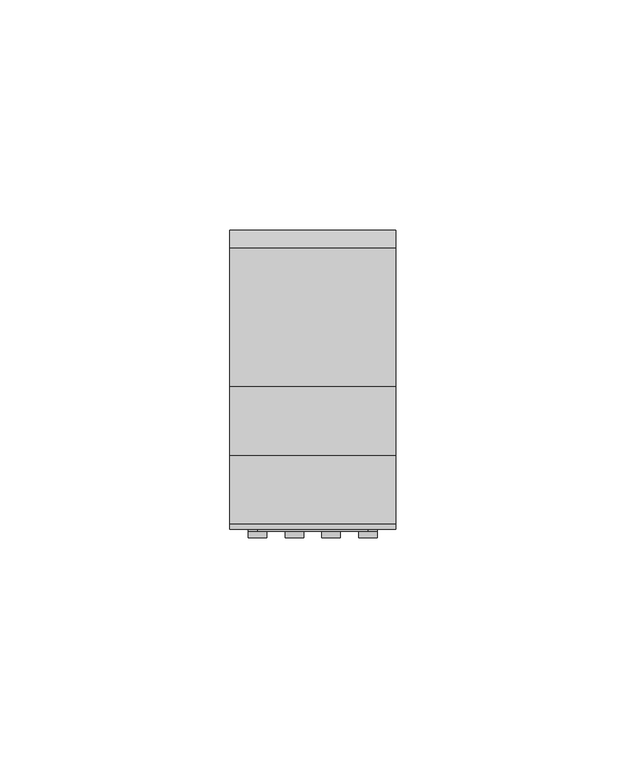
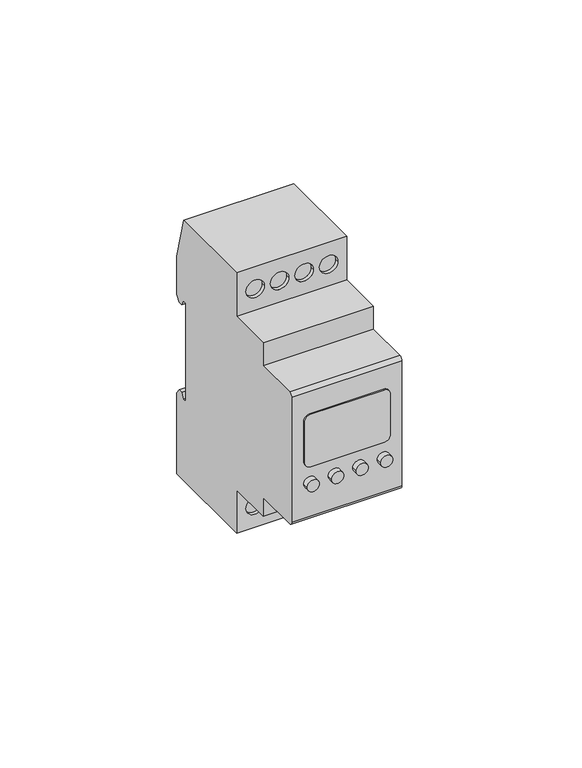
"""IFC4 building model written with IfcOpenShell, lengths in millimetres: proxy geometry, TDM_РЕЛЕ ТЕМПЕРАТУРЫ СЕРИИ РТ-820 М : 16А."""

from ifc_helpers import new_model, si_unit, point, frame, frame_2d, origin, place, context, project, spatial, polyline, circle_curve, trimmed, segment, composite_curve, outline, extrude, source, transform, mapped, element, save
from ifc_brep_helpers import plane_surface, cylinder_surface, revolved_surface, advanced_brep


def electrical_equipment_389d0776(model_context):
    return source(origin(), model_context, "Body", "SolidModel", [
        extrude(outline(composite_curve([segment(polyline([(13.1241122, 12.0), (13.1241122, -12.0)]), True, "CONTINUOUS"), segment(trimmed(circle_curve(frame_2d((11.1241122, -12.0)), 2.0), [point((13.1241122, -12.0))], [point((11.1241122, -14.0))], False, "CARTESIAN"), True, "CONTINUOUS"), segment(polyline([(11.1241122, -14.0), (-2.8758878, -14.0)]), True, "CONTINUOUS"), segment(trimmed(circle_curve(frame_2d((-2.8758878, -12.0)), 2.0), [point((-2.8758878, -14.0))], [point((-4.8758878, -12.0))], False, "CARTESIAN"), True, "CONTINUOUS"), segment(polyline([(-4.8758878, -12.0), (-4.8758878, 12.0)]), True, "CONTINUOUS"), segment(trimmed(circle_curve(frame_2d((-2.8758878, 12.0)), 2.0), [point((-4.8758878, 12.0))], [point((-2.8758878, 14.0))], False, "CARTESIAN"), True, "CONTINUOUS"), segment(polyline([(-2.8758878, 14.0), (11.1241122, 14.0)]), True, "CONTINUOUS"), segment(trimmed(circle_curve(frame_2d((11.1241122, 12.0)), 2.0), [point((11.1241122, 14.0))], [point((13.1241122, 12.0))], False, "CARTESIAN"), True, "CONTINUOUS")], self_intersect=False)), frame((0.0, -28.0, 0.0), z_axis=(0.0, 1.0, 0.0), x_axis=(0.0, 0.0, 1.0)), (0.0, 0.0, 1.0), 0.5),
        extrude(outline(composite_curve([segment(trimmed(circle_curve(frame_2d((-10.5907731, 4.0)), 2.0), [point((-10.5907731, 2.0))], [point((-10.5907731, 6.0))], False, "CARTESIAN"), True, "CONTINUOUS"), segment(trimmed(circle_curve(frame_2d((-10.5907731, 4.0)), 2.0), [point((-10.5907731, 6.0))], [point((-10.5907731, 2.0))], False, "CARTESIAN"), True, "CONTINUOUS")], self_intersect=False)), frame((0.0, -29.4413206, 0.0), z_axis=(0.0, 1.0, 0.0), x_axis=(0.0, 0.0, 1.0)), (0.0, 0.0, 1.0), 1.9413206),
        extrude(outline(composite_curve([segment(trimmed(circle_curve(frame_2d((-10.5907731, 12.0)), 2.0), [point((-10.5907731, 10.0))], [point((-10.5907731, 14.0))], False, "CARTESIAN"), True, "CONTINUOUS"), segment(trimmed(circle_curve(frame_2d((-10.5907731, 12.0)), 2.0), [point((-10.5907731, 14.0))], [point((-10.5907731, 10.0))], False, "CARTESIAN"), True, "CONTINUOUS")], self_intersect=False)), frame((0.0, -29.4413206, 0.0), z_axis=(0.0, 1.0, 0.0), x_axis=(0.0, 0.0, 1.0)), (0.0, 0.0, 1.0), 1.9413206),
        extrude(outline(composite_curve([segment(trimmed(circle_curve(frame_2d((-10.5907731, -4.0)), 2.0), [point((-10.5907731, -2.0))], [point((-10.5907731, -6.0))], False, "CARTESIAN"), True, "CONTINUOUS"), segment(trimmed(circle_curve(frame_2d((-10.5907731, -4.0)), 2.0), [point((-10.5907731, -6.0))], [point((-10.5907731, -2.0))], False, "CARTESIAN"), True, "CONTINUOUS")], self_intersect=False)), frame((0.0, -29.4413206, 0.0), z_axis=(0.0, 1.0, 0.0), x_axis=(0.0, 0.0, 1.0)), (0.0, 0.0, 1.0), 1.9413206),
        extrude(outline(composite_curve([segment(trimmed(circle_curve(frame_2d((-10.5907731, -12.0)), 2.0), [point((-10.5907731, -10.0))], [point((-10.5907731, -14.0))], False, "CARTESIAN"), True, "CONTINUOUS"), segment(trimmed(circle_curve(frame_2d((-10.5907731, -12.0)), 2.0), [point((-10.5907731, -14.0))], [point((-10.5907731, -10.0))], False, "CARTESIAN"), True, "CONTINUOUS")], self_intersect=False)), frame((0.0, -29.4413206, 0.0), z_axis=(0.0, 1.0, 0.0), x_axis=(0.0, 0.0, 1.0)), (0.0, 0.0, 1.0), 1.9413206),
        extrude(outline(polyline([(17.0, 16.6821204), (17.0, 5.0468966), (-17.0, 5.0468966), (-17.0, 16.6821204), (17.0, 16.6821204)])), frame((0.0, 0.0, -44.0625), z_axis=(0.0, 0.0, 1.0), x_axis=(1.0, 0.0, 0.0)), (0.0, 0.0, 1.0), 87.8126081),
        advanced_brep(
        [(18.0, 32.5, 17.0), (18.0, 33.6998687, 17.0), (18.0, 34.5867748, 15.0980238), (18.0, 36.1682219, 15.0980238), (18.0, 37.5, 17.0), (18.0, 37.5, 30.0836686), (18.0, 33.503181, 45.0), (18.0, 3.5, 45.0), (18.0, 3.5, 30.0), (18.0, -11.5, 30.0), (18.0, -11.5, 22.0), (18.0, -26.3777313, 22.0), (18.0, -27.5, 20.8777313), (18.0, -27.5, -22.3875602), (18.0, -26.3875602, -23.5), (18.0, -11.5, -23.5), (18.0, -11.5, -30.0), (18.0, 3.5, -30.0), (18.0, 3.5, -45.0), (18.0, 37.5, -45.0), (18.0, 37.5, -17.0), (18.0, 36.1682219, -15.0980238), (18.0, 34.5867748, -15.0980238), (18.0, 33.6998687, -17.0), (18.0, 32.5, -17.0), (-18.0, 32.5, 17.0), (-18.0, 32.5, -17.0), (-18.0, 33.6998687, -17.0), (-18.0, 34.5867748, -15.0980238), (-18.0, 36.1682219, -15.0980238), (-18.0, 37.5, -17.0), (-18.0, 37.5, -45.0), (-18.0, 3.5, -45.0), (-18.0, 3.5, -30.0), (-18.0, -11.5, -30.0), (-18.0, -11.5, -23.5), (-18.0, -26.3875602, -23.5), (-18.0, -27.5, -22.3875602), (-18.0, -27.5, 20.8777313), (-18.0, -26.3777313, 22.0), (-18.0, -11.5, 22.0), (-18.0, -11.5, 30.0), (-18.0, 3.5, 30.0), (-18.0, 3.5, 45.0), (-18.0, 33.503181, 45.0), (-18.0, 37.5, 30.0836686), (-18.0, 37.5, 17.0), (-18.0, 36.1682219, 15.0980238), (-18.0, 34.5867748, 15.0980238), (-18.0, 33.6998687, 17.0), (7.0, 6.1937398, -37.4385116), (1.0, 6.1937398, -37.4385116), (-7.0, 6.1937398, -37.4385116), (-1.0, 6.1937398, -37.4385116), (15.0, 6.1937398, -37.4385116), (9.0, 6.1937398, -37.4385116), (-15.0, 6.1937398, -37.4385116), (-9.0, 6.1937398, -37.4385116), (7.0, 6.1937398, 37.4385116), (1.0, 6.1937398, 37.4385116), (-7.0, 6.1937398, 37.4385116), (-1.0, 6.1937398, 37.4385116), (15.0, 6.1937398, 37.4385116), (9.0, 6.1937398, 37.4385116), (-15.0, 6.1937398, 37.4385116), (-9.0, 6.1937398, 37.4385116), (1.0, 3.5, 37.4385116), (7.0, 3.5, 37.4385116), (-1.0, 3.5, 37.4385116), (-7.0, 3.5, 37.4385116), (9.0, 3.5, 37.4385116), (15.0, 3.5, 37.4385116), (-9.0, 3.5, 37.4385116), (-15.0, 3.5, 37.4385116), (1.0, 3.5, -37.4385116), (7.0, 3.5, -37.4385116), (-1.0, 3.5, -37.4385116), (-7.0, 3.5, -37.4385116), (9.0, 3.5, -37.4385116), (15.0, 3.5, -37.4385116), (-9.0, 3.5, -37.4385116), (-15.0, 3.5, -37.4385116)],
        [
            (0, 1),
            (1, 2),
            (2, 3),
            (3, 4),
            (4, 5),
            (5, 6),
            (6, 7),
            (7, 8),
            (8, 9),
            (9, 10),
            (10, 11),
            (11, 12, circle_curve(frame((18.0, -26.3777313, 20.8777313), z_axis=(1.0, 0.0, 0.0), x_axis=(0.0, -1.0, 0.0)), 1.1222687)),
            (12, 13),
            (13, 14, circle_curve(frame((18.0, -26.3875602, -22.3875602), z_axis=(1.0, 0.0, 0.0), x_axis=(0.0, -1.0, 0.0)), 1.1124398)),
            (14, 15),
            (15, 16),
            (16, 17),
            (17, 18),
            (18, 19),
            (19, 20),
            (20, 21),
            (21, 22),
            (22, 23),
            (23, 24),
            (24, 0),
            (25, 26),
            (26, 27),
            (27, 28),
            (28, 29),
            (29, 30),
            (30, 31),
            (31, 32),
            (32, 33),
            (33, 34),
            (34, 35),
            (35, 36),
            (36, 37, circle_curve(frame((-18.0, -26.3875602, -22.3875602), z_axis=(-1.0, 0.0, 0.0), x_axis=(0.0, -1.0, 0.0)), 1.1124398)),
            (37, 38),
            (38, 39, circle_curve(frame((-18.0, -26.3777313, 20.8777313), z_axis=(-1.0, 0.0, 0.0), x_axis=(0.0, -1.0, 0.0)), 1.1222687)),
            (39, 40),
            (40, 41),
            (41, 42),
            (42, 43),
            (43, 44),
            (44, 45),
            (45, 46),
            (46, 47),
            (47, 48),
            (48, 49),
            (49, 25),
            (0, 25),
            (49, 1),
            (4, 46),
            (45, 5),
            (10, 40),
            (39, 11),
            (38, 12),
            (37, 13),
            (14, 36),
            (35, 15),
            (18, 32),
            (31, 19),
            (30, 20),
            (23, 27),
            (26, 24),
            (50, 51, circle_curve(frame((4.0, 6.1937398, -37.4385116), z_axis=(0.0, -1.0, 0.0), x_axis=(-1.0, 0.0, 0.0)), 3.0)),
            (51, 50, circle_curve(frame((4.0, 6.1937398, -37.4385116), z_axis=(0.0, -1.0, 0.0), x_axis=(-1.0, 0.0, 0.0)), 3.0)),
            (52, 53, circle_curve(frame((-4.0, 6.1937398, -37.4385116), z_axis=(0.0, -1.0, 0.0), x_axis=(1.0, 0.0, 0.0)), 3.0)),
            (53, 52, circle_curve(frame((-4.0, 6.1937398, -37.4385116), z_axis=(0.0, -1.0, 0.0), x_axis=(1.0, 0.0, 0.0)), 3.0)),
            (54, 55, circle_curve(frame((12.0, 6.1937398, -37.4385116), z_axis=(0.0, -1.0, 0.0), x_axis=(-1.0, 0.0, 0.0)), 3.0)),
            (55, 54, circle_curve(frame((12.0, 6.1937398, -37.4385116), z_axis=(0.0, -1.0, 0.0), x_axis=(-1.0, 0.0, 0.0)), 3.0)),
            (56, 57, circle_curve(frame((-12.0, 6.1937398, -37.4385116), z_axis=(0.0, -1.0, 0.0), x_axis=(1.0, 0.0, 0.0)), 3.0)),
            (57, 56, circle_curve(frame((-12.0, 6.1937398, -37.4385116), z_axis=(0.0, -1.0, 0.0), x_axis=(1.0, 0.0, 0.0)), 3.0)),
            (58, 59, circle_curve(frame((4.0, 6.1937398, 37.4385116), z_axis=(0.0, -1.0, 0.0), x_axis=(-1.0, 0.0, 0.0)), 3.0)),
            (59, 58, circle_curve(frame((4.0, 6.1937398, 37.4385116), z_axis=(0.0, -1.0, 0.0), x_axis=(-1.0, 0.0, 0.0)), 3.0)),
            (60, 61, circle_curve(frame((-4.0, 6.1937398, 37.4385116), z_axis=(0.0, -1.0, 0.0), x_axis=(1.0, 0.0, 0.0)), 3.0)),
            (61, 60, circle_curve(frame((-4.0, 6.1937398, 37.4385116), z_axis=(0.0, -1.0, 0.0), x_axis=(1.0, 0.0, 0.0)), 3.0)),
            (62, 63, circle_curve(frame((12.0, 6.1937398, 37.4385116), z_axis=(0.0, -1.0, 0.0), x_axis=(-1.0, 0.0, 0.0)), 3.0)),
            (63, 62, circle_curve(frame((12.0, 6.1937398, 37.4385116), z_axis=(0.0, -1.0, 0.0), x_axis=(-1.0, 0.0, 0.0)), 3.0)),
            (64, 65, circle_curve(frame((-12.0, 6.1937398, 37.4385116), z_axis=(0.0, -1.0, 0.0), x_axis=(1.0, 0.0, 0.0)), 3.0)),
            (65, 64, circle_curve(frame((-12.0, 6.1937398, 37.4385116), z_axis=(0.0, -1.0, 0.0), x_axis=(1.0, 0.0, 0.0)), 3.0)),
            (7, 43),
            (42, 8),
            (66, 67, circle_curve(frame((4.0, 3.5, 37.4385116), z_axis=(0.0, 1.0, 0.0), x_axis=(-1.0, 0.0, 0.0)), 3.0)),
            (67, 66, circle_curve(frame((4.0, 3.5, 37.4385116), z_axis=(0.0, 1.0, 0.0), x_axis=(-1.0, 0.0, 0.0)), 3.0)),
            (68, 69, circle_curve(frame((-4.0, 3.5, 37.4385116), z_axis=(0.0, 1.0, 0.0), x_axis=(1.0, 0.0, 0.0)), 3.0)),
            (69, 68, circle_curve(frame((-4.0, 3.5, 37.4385116), z_axis=(0.0, 1.0, 0.0), x_axis=(1.0, 0.0, 0.0)), 3.0)),
            (70, 71, circle_curve(frame((12.0, 3.5, 37.4385116), z_axis=(0.0, 1.0, 0.0), x_axis=(-1.0, 0.0, 0.0)), 3.0)),
            (71, 70, circle_curve(frame((12.0, 3.5, 37.4385116), z_axis=(0.0, 1.0, 0.0), x_axis=(-1.0, 0.0, 0.0)), 3.0)),
            (72, 73, circle_curve(frame((-12.0, 3.5, 37.4385116), z_axis=(0.0, 1.0, 0.0), x_axis=(1.0, 0.0, 0.0)), 3.0)),
            (73, 72, circle_curve(frame((-12.0, 3.5, 37.4385116), z_axis=(0.0, 1.0, 0.0), x_axis=(1.0, 0.0, 0.0)), 3.0)),
            (41, 9),
            (34, 16),
            (33, 17),
            (74, 75, circle_curve(frame((4.0, 3.5, -37.4385116), z_axis=(0.0, 1.0, 0.0), x_axis=(-1.0, 0.0, 0.0)), 3.0)),
            (75, 74, circle_curve(frame((4.0, 3.5, -37.4385116), z_axis=(0.0, 1.0, 0.0), x_axis=(-1.0, 0.0, 0.0)), 3.0)),
            (76, 77, circle_curve(frame((-4.0, 3.5, -37.4385116), z_axis=(0.0, 1.0, 0.0), x_axis=(1.0, 0.0, 0.0)), 3.0)),
            (77, 76, circle_curve(frame((-4.0, 3.5, -37.4385116), z_axis=(0.0, 1.0, 0.0), x_axis=(1.0, 0.0, 0.0)), 3.0)),
            (78, 79, circle_curve(frame((12.0, 3.5, -37.4385116), z_axis=(0.0, 1.0, 0.0), x_axis=(-1.0, 0.0, 0.0)), 3.0)),
            (79, 78, circle_curve(frame((12.0, 3.5, -37.4385116), z_axis=(0.0, 1.0, 0.0), x_axis=(-1.0, 0.0, 0.0)), 3.0)),
            (80, 81, circle_curve(frame((-12.0, 3.5, -37.4385116), z_axis=(0.0, 1.0, 0.0), x_axis=(1.0, 0.0, 0.0)), 3.0)),
            (81, 80, circle_curve(frame((-12.0, 3.5, -37.4385116), z_axis=(0.0, 1.0, 0.0), x_axis=(1.0, 0.0, 0.0)), 3.0)),
            (6, 44),
            (50, 75),
            (74, 51),
            (52, 77),
            (76, 53),
            (54, 79),
            (78, 55),
            (56, 81),
            (80, 57),
            (58, 67),
            (66, 59),
            (60, 69),
            (68, 61),
            (62, 71),
            (70, 63),
            (64, 73),
            (72, 65),
            (48, 2),
            (47, 3),
            (29, 21),
            (28, 22),
        ],
        [
            plane_surface(frame((18.0, 31.7632568, 17.0), z_axis=(1.0, 0.0, 0.0), x_axis=(0.0, 1.0, 0.0))),
            plane_surface(frame((-18.0, 31.7632568, 17.0), z_axis=(-1.0, 0.0, 0.0), x_axis=(0.0, -1.0, 0.0))),
            plane_surface(frame((18.0, 32.5, 17.0), z_axis=(0.0, 0.0, -1.0), x_axis=(-1.0, 0.0, 0.0))),
            plane_surface(frame((18.0, 37.5, 17.0), z_axis=(0.0, 1.0, 0.0), x_axis=(-1.0, 0.0, 0.0))),
            plane_surface(frame((18.0, -11.5, 22.0), z_axis=(0.0, 0.0, 1.0), x_axis=(-1.0, 0.0, 0.0))),
            cylinder_surface(frame((-18.0, -26.3777313, 20.8777313), z_axis=(1.0, 0.0, 0.0), x_axis=(0.0, -1.0, 0.0)), 1.1222687),
            plane_surface(frame((18.0, -27.5, 20.8777313), z_axis=(0.0, -1.0, 0.0), x_axis=(-1.0, 0.0, 0.0))),
            plane_surface(frame((18.0, -26.3875602, -23.5), z_axis=(0.0, 0.0, -1.0), x_axis=(-1.0, 0.0, 0.0))),
            plane_surface(frame((18.0, 3.5, -45.0), z_axis=(0.0, 0.0, -1.0), x_axis=(-1.0, 0.0, 0.0))),
            plane_surface(frame((18.0, 37.5, -45.0), z_axis=(0.0, 1.0, 0.0), x_axis=(-1.0, 0.0, 0.0))),
            plane_surface(frame((18.0, 33.6998687, -17.0), z_axis=(0.0, 0.0, 1.0), x_axis=(-1.0, 0.0, 0.0))),
            plane_surface(frame((18.0, 32.5, -17.0), z_axis=(0.0, 1.0, 0.0), x_axis=(-1.0, 0.0, 0.0))),
            cylinder_surface(frame((-18.0, -26.3875602, -22.3875602), z_axis=(1.0, 0.0, 0.0), x_axis=(0.0, -1.0, 0.0)), 1.1124398),
            plane_surface(frame((1.0, 6.1937398, -37.4385116), z_axis=(0.0, -1.0, 0.0), x_axis=(0.0, 0.0, 1.0))),
            plane_surface(frame((18.0, 3.5, 45.0), z_axis=(0.0, -1.0, 0.0), x_axis=(-1.0, 0.0, 0.0))),
            plane_surface(frame((18.0, 3.5, 30.0), z_axis=(0.0, 0.0, 1.0), x_axis=(-1.0, 0.0, 0.0))),
            plane_surface(frame((18.0, -11.5, 30.0), z_axis=(0.0, -1.0, 0.0), x_axis=(-1.0, 0.0, 0.0))),
            plane_surface(frame((18.0, -11.5, -23.5), z_axis=(0.0, -1.0, 0.0), x_axis=(-1.0, 0.0, 0.0))),
            plane_surface(frame((18.0, -11.5, -30.0), z_axis=(0.0, 0.0, -1.0), x_axis=(-1.0, 0.0, 0.0))),
            plane_surface(frame((18.0, 3.5, -30.0), z_axis=(0.0, -1.0, 0.0), x_axis=(-1.0, 0.0, 0.0))),
            plane_surface(frame((18.0, 33.503181, 45.0), z_axis=(0.0, 0.0, 1.0), x_axis=(-1.0, 0.0, 0.0))),
            revolved_surface(polyline([(1.0, 3.5, -37.4385116), (1.0, 6.1937398, -37.4385116)]), (4.0, 6.1937398, -37.4385116), (0.0, -1.0, 0.0)),
            revolved_surface(polyline([(-1.0, 3.5, -37.4385116), (-1.0, 6.1937398, -37.4385116)]), (-4.0, 0.0, -37.4385116), (0.0, -1.0, 0.0)),
            revolved_surface(polyline([(9.0, 3.5, -37.4385116), (9.0, 6.1937398, -37.4385116)]), (12.0, 0.0, -37.4385116), (0.0, -1.0, 0.0)),
            revolved_surface(polyline([(-9.0, 3.5, -37.4385116), (-9.0, 6.1937398, -37.4385116)]), (-12.0, 0.0, -37.4385116), (0.0, -1.0, 0.0)),
            revolved_surface(polyline([(1.0, 3.5, 37.4385116), (1.0, 6.1937398, 37.4385116)]), (4.0, 0.0, 37.4385116), (0.0, -1.0, 0.0)),
            revolved_surface(polyline([(-1.0, 3.5, 37.4385116), (-1.0, 6.1937398, 37.4385116)]), (-4.0, 0.0, 37.4385116), (0.0, -1.0, 0.0)),
            revolved_surface(polyline([(9.0, 3.5, 37.4385116), (9.0, 6.1937398, 37.4385116)]), (12.0, 0.0, 37.4385116), (0.0, -1.0, 0.0)),
            revolved_surface(polyline([(-9.0, 3.5, 37.4385116), (-9.0, 6.1937398, 37.4385116)]), (-12.0, 0.0, 37.4385116), (0.0, -1.0, 0.0)),
            plane_surface(frame((18.0, 33.6998687, 17.0), z_axis=(0.0, -0.9063077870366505, -0.42261826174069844), x_axis=(-1.0, 0.0, 0.0))),
            plane_surface(frame((18.0, 34.5867748, 15.0980238), z_axis=(0.0, 0.0, -1.0), x_axis=(-1.0, 0.0, 0.0))),
            plane_surface(frame((18.0, 36.1682219, 15.0980238), z_axis=(0.0, 0.8191520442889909, -0.5735764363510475), x_axis=(-1.0, 0.0, 0.0))),
            plane_surface(frame((18.0, 37.5, 30.0836686), z_axis=(0.0, 0.9659258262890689, 0.2588190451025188), x_axis=(-1.0, 0.0, 0.0))),
            plane_surface(frame((18.0, 37.5, -17.0), z_axis=(0.0, 0.8191520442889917, 0.5735764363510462), x_axis=(-1.0, 0.0, 0.0))),
            plane_surface(frame((18.0, 36.1682219, -15.0980238), z_axis=(0.0, 0.0, 1.0), x_axis=(-1.0, 0.0, 0.0))),
            plane_surface(frame((18.0, 34.5867748, -15.0980238), z_axis=(0.0, -0.9063077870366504, 0.42261826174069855), x_axis=(-1.0, 0.0, 0.0))),
        ],
        [
            (0, [[1, 2, 3, 4, 5, 6, 7, 8, 9, 10, 11, 12, 13, 14, 15, 16, 17, 18, 19, 20, 21, 22, 23, 24, 25]]),
            (1, [[26, 27, 28, 29, 30, 31, 32, 33, 34, 35, 36, 37, 38, 39, 40, 41, 42, 43, 44, 45, 46, 47, 48, 49, 50]]),
            (2, [[-1, 51, -50, 52]]),
            (3, [[-5, 53, -46, 54]]),
            (4, [[-11, 55, -40, 56]]),
            (5, [[-12, -56, -39, 57]]),
            (6, [[-13, -57, -38, 58]]),
            (7, [[-15, 59, -36, 60]]),
            (8, [[-19, 61, -32, 62]]),
            (9, [[-20, -62, -31, 63]]),
            (10, [[-24, 64, -27, 65]]),
            (11, [[-25, -65, -26, -51]]),
            (12, [[-14, -58, -37, -59]]),
            (13, [[66, 67]]),
            (13, [[68, 69]]),
            (13, [[70, 71]]),
            (13, [[72, 73]]),
            (13, [[74, 75]]),
            (13, [[76, 77]]),
            (13, [[78, 79]]),
            (13, [[80, 81]]),
            (14, [[-8, 82, -43, 83], [84, 85], [86, 87], [88, 89], [90, 91]]),
            (15, [[-9, -83, -42, 92]]),
            (16, [[-10, -92, -41, -55]]),
            (17, [[-16, -60, -35, 93]]),
            (18, [[-17, -93, -34, 94]]),
            (19, [[-18, -94, -33, -61], [95, 96], [97, 98], [99, 100], [101, 102]]),
            (20, [[-7, 103, -44, -82]]),
            (21, [[-66, 104, -95, 105]]),
            (21, [[-67, -105, -96, -104]]),
            (22, [[-68, 106, -97, 107]]),
            (22, [[-69, -107, -98, -106]]),
            (23, [[-70, 108, -99, 109]]),
            (23, [[-71, -109, -100, -108]]),
            (24, [[-72, 110, -101, 111]]),
            (24, [[-73, -111, -102, -110]]),
            (25, [[-74, 112, -84, 113]]),
            (25, [[-75, -113, -85, -112]]),
            (26, [[-76, 114, -86, 115]]),
            (26, [[-77, -115, -87, -114]]),
            (27, [[-78, 116, -88, 117]]),
            (27, [[-79, -117, -89, -116]]),
            (28, [[-80, 118, -90, 119]]),
            (28, [[-81, -119, -91, -118]]),
            (29, [[-2, -52, -49, 120]]),
            (30, [[-3, -120, -48, 121]]),
            (31, [[-4, -121, -47, -53]]),
            (32, [[-6, -54, -45, -103]]),
            (33, [[-21, -63, -30, 122]]),
            (34, [[-22, -122, -29, 123]]),
            (35, [[-23, -123, -28, -64]]),
        ],
    ),
    ])


if __name__ == "__main__":
    model = new_model("IFC4")
    model_context = context("Model", 3, world=origin())
    ifc_project = project(units=[si_unit("LENGTHUNIT", "METRE", prefix="MILLI")], contexts=[model_context])
    site = spatial("IfcSite", under=ifc_project)
    building = spatial("IfcBuilding", under=site)
    placement = place(None, origin())
    electrical_equipment_shape = electrical_equipment_389d0776(model_context)
    element("IfcBuildingElementProxy", 1, Name="TDM_РЕЛЕ ТЕМПЕРАТУРЫ СЕРИИ РТ-820 М : 16А", ObjectType="TDM_РЕЛЕ ТЕМПЕРАТУРЫ СЕРИИ РТ-820 М : 16А", at=placement, inside=building, context=model_context, shape_type="MappedRepresentation", body=[
        mapped(electrical_equipment_shape, transform((0.0, 0.0, 0.0), x_axis=(1.0, 0.0, 0.0), y_axis=(0.0, 1.0, 0.0), z_axis=(0.0, 0.0, 1.0))),
    ])
    save(model, "model.ifc")
